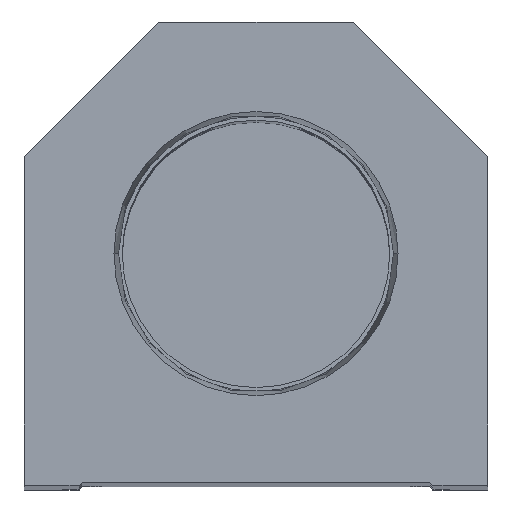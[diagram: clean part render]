
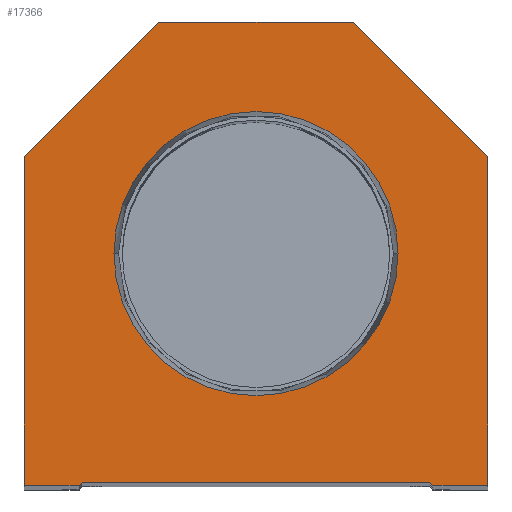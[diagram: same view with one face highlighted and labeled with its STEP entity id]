
A CAD part, top view. The second image highlights one B-rep face of the part: STEP entity #17366.
In plain terms, the highlighted planar face has unit normal (0, 0, 1).
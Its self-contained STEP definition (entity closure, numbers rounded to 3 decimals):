
#59 = ORIENTED_EDGE ( 'NONE', *, *, #10349, .T. ) ;
#123 = CARTESIAN_POINT ( 'NONE',  ( -28.6, 0., 0. ) ) ;
#136 = VECTOR ( 'NONE', #20330, 1000. ) ;
#239 = DIRECTION ( 'NONE',  ( 1., 0., 0. ) ) ;
#343 = CARTESIAN_POINT ( 'NONE',  ( 28.6, 0., 0. ) ) ;
#391 = CARTESIAN_POINT ( 'NONE',  ( -28.6, 0.5, 0. ) ) ;
#417 = CARTESIAN_POINT ( 'NONE',  ( -28.6, 0.5, 0. ) ) ;
#503 = VERTEX_POINT ( 'NONE', #391 ) ;
#581 = ORIENTED_EDGE ( 'NONE', *, *, #6490, .F. ) ;
#603 = EDGE_CURVE ( 'NONE', #5644, #10922, #5080, .T. ) ;
#1473 = VERTEX_POINT ( 'NONE', #15747 ) ;
#1701 = FACE_OUTER_BOUND ( 'NONE', #19092, .T. ) ;
#1912 = DIRECTION ( 'NONE',  ( 0., 1., 0. ) ) ;
#1975 = EDGE_CURVE ( 'NONE', #14886, #8100, #18132, .T. ) ;
#2215 = EDGE_CURVE ( 'NONE', #3286, #503, #13247, .T. ) ;
#2455 = VERTEX_POINT ( 'NONE', #10154 ) ;
#2471 = CARTESIAN_POINT ( 'NONE',  ( 0., 38.1, 0. ) ) ;
#2623 = EDGE_CURVE ( 'NONE', #8100, #11503, #14977, .T. ) ;
#3204 = CARTESIAN_POINT ( 'NONE',  ( 0., 0., 0. ) ) ;
#3286 = VERTEX_POINT ( 'NONE', #6824 ) ;
#4010 = CARTESIAN_POINT ( 'NONE',  ( -38.1, 0., 0. ) ) ;
#4024 = ORIENTED_EDGE ( 'NONE', *, *, #19856, .T. ) ;
#4147 = VECTOR ( 'NONE', #21615, 1000. ) ;
#4477 = VECTOR ( 'NONE', #18718, 1000. ) ;
#4664 = CARTESIAN_POINT ( 'NONE',  ( -14.55, 14.55, 0. ) ) ;
#4911 = DIRECTION ( 'NONE',  ( 0., 0., 1. ) ) ;
#5080 = LINE ( 'NONE', #17137, #4477 ) ;
#5209 = VECTOR ( 'NONE', #239, 1000. ) ;
#5387 = CARTESIAN_POINT ( 'NONE',  ( -38.1, 54.1, 0. ) ) ;
#5510 = CIRCLE ( 'NONE', #9569, 23.374 ) ;
#5560 = EDGE_CURVE ( 'NONE', #2455, #1473, #20027, .T. ) ;
#5644 = VERTEX_POINT ( 'NONE', #5387 ) ;
#5848 = ORIENTED_EDGE ( 'NONE', *, *, #2623, .T. ) ;
#5850 = EDGE_CURVE ( 'NONE', #16399, #11467, #12468, .T. ) ;
#5949 = ORIENTED_EDGE ( 'NONE', *, *, #18598, .T. ) ;
#6307 = DIRECTION ( 'NONE',  ( -0.707, 0.707, 0. ) ) ;
#6490 = EDGE_CURVE ( 'NONE', #11467, #16399, #5510, .T. ) ;
#6824 = CARTESIAN_POINT ( 'NONE',  ( -29.1, 0., 0. ) ) ;
#6941 = CARTESIAN_POINT ( 'NONE',  ( 28.6, 0.5, 0. ) ) ;
#7112 = VECTOR ( 'NONE', #1912, 1000. ) ;
#7644 = DIRECTION ( 'NONE',  ( 1., 0., 0. ) ) ;
#7966 = EDGE_CURVE ( 'NONE', #10922, #3286, #8732, .T. ) ;
#8100 = VERTEX_POINT ( 'NONE', #11592 ) ;
#8490 = DIRECTION ( 'NONE',  ( 1., 0., 0. ) ) ;
#8546 = DIRECTION ( 'NONE',  ( 0.707, -0.707, 0. ) ) ;
#8732 = LINE ( 'NONE', #123, #5209 ) ;
#9569 = AXIS2_PLACEMENT_3D ( 'NONE', #15003, #4911, #13623 ) ;
#9584 = ORIENTED_EDGE ( 'NONE', *, *, #1975, .T. ) ;
#9683 = VECTOR ( 'NONE', #9928, 1000. ) ;
#9916 = AXIS2_PLACEMENT_3D ( 'NONE', #2471, #21497, #7644 ) ;
#9928 = DIRECTION ( 'NONE',  ( 0.707, 0.707, 0. ) ) ;
#10142 = ORIENTED_EDGE ( 'NONE', *, *, #5850, .F. ) ;
#10154 = CARTESIAN_POINT ( 'NONE',  ( 29.1, 0., 0. ) ) ;
#10210 = FACE_BOUND ( 'NONE', #15792, .T. ) ;
#10349 = EDGE_CURVE ( 'NONE', #1473, #14886, #19985, .T. ) ;
#10770 = VECTOR ( 'NONE', #18413, 1000. ) ;
#10922 = VERTEX_POINT ( 'NONE', #4010 ) ;
#11079 = VECTOR ( 'NONE', #8546, 1000. ) ;
#11281 = CARTESIAN_POINT ( 'NONE',  ( -16., 76.2, 0. ) ) ;
#11411 = CARTESIAN_POINT ( 'NONE',  ( 16., 76.2, 0. ) ) ;
#11467 = VERTEX_POINT ( 'NONE', #21828 ) ;
#11503 = VERTEX_POINT ( 'NONE', #11281 ) ;
#11592 = CARTESIAN_POINT ( 'NONE',  ( 16., 76.2, 0. ) ) ;
#11834 = CARTESIAN_POINT ( 'NONE',  ( -23.374, 38.1, 0. ) ) ;
#12466 = CARTESIAN_POINT ( 'NONE',  ( 38.1, 0., 0. ) ) ;
#12468 = CIRCLE ( 'NONE', #9916, 23.374 ) ;
#13223 = PLANE ( 'NONE',  #16894 ) ;
#13247 = LINE ( 'NONE', #4664, #9683 ) ;
#13623 = DIRECTION ( 'NONE',  ( 1., 0., 0. ) ) ;
#14886 = VERTEX_POINT ( 'NONE', #16120 ) ;
#14977 = LINE ( 'NONE', #11411, #10770 ) ;
#15003 = CARTESIAN_POINT ( 'NONE',  ( 0., 38.1, 0. ) ) ;
#15366 = CARTESIAN_POINT ( 'NONE',  ( 38.1, 54.1, 0. ) ) ;
#15747 = CARTESIAN_POINT ( 'NONE',  ( 38.1, 0., 0. ) ) ;
#15792 = EDGE_LOOP ( 'NONE', ( #581, #10142 ) ) ;
#16120 = CARTESIAN_POINT ( 'NONE',  ( 38.1, 54.1, 0. ) ) ;
#16133 = ORIENTED_EDGE ( 'NONE', *, *, #21326, .T. ) ;
#16250 = VERTEX_POINT ( 'NONE', #6941 ) ;
#16399 = VERTEX_POINT ( 'NONE', #11834 ) ;
#16484 = VECTOR ( 'NONE', #16610, 1000. ) ;
#16610 = DIRECTION ( 'NONE',  ( 1., 0., 0. ) ) ;
#16894 = AXIS2_PLACEMENT_3D ( 'NONE', #3204, #18386, #8490 ) ;
#17137 = CARTESIAN_POINT ( 'NONE',  ( -38.1, 0., 0. ) ) ;
#17332 = VECTOR ( 'NONE', #6307, 1000. ) ;
#17366 = ADVANCED_FACE ( 'NONE', ( #10210, #1701 ), #13223, .T. ) ;
#17443 = ORIENTED_EDGE ( 'NONE', *, *, #2215, .T. ) ;
#18022 = ORIENTED_EDGE ( 'NONE', *, *, #5560, .T. ) ;
#18132 = LINE ( 'NONE', #15366, #17332 ) ;
#18170 = CARTESIAN_POINT ( 'NONE',  ( -38.1, 54.1, 0. ) ) ;
#18386 = DIRECTION ( 'NONE',  ( 0., 0., 1. ) ) ;
#18413 = DIRECTION ( 'NONE',  ( -1., 0., 0. ) ) ;
#18598 = EDGE_CURVE ( 'NONE', #16250, #2455, #20570, .T. ) ;
#18625 = CARTESIAN_POINT ( 'NONE',  ( 14.55, 14.55, 0. ) ) ;
#18718 = DIRECTION ( 'NONE',  ( 0., -1., 0. ) ) ;
#19092 = EDGE_LOOP ( 'NONE', ( #19583, #17443, #16133, #5949, #18022, #59, #9584, #5848, #4024, #21266 ) ) ;
#19549 = LINE ( 'NONE', #417, #4147 ) ;
#19583 = ORIENTED_EDGE ( 'NONE', *, *, #7966, .T. ) ;
#19856 = EDGE_CURVE ( 'NONE', #11503, #5644, #21934, .T. ) ;
#19985 = LINE ( 'NONE', #12466, #7112 ) ;
#20027 = LINE ( 'NONE', #343, #16484 ) ;
#20330 = DIRECTION ( 'NONE',  ( -0.707, -0.707, 0. ) ) ;
#20570 = LINE ( 'NONE', #18625, #11079 ) ;
#21266 = ORIENTED_EDGE ( 'NONE', *, *, #603, .T. ) ;
#21326 = EDGE_CURVE ( 'NONE', #503, #16250, #19549, .T. ) ;
#21497 = DIRECTION ( 'NONE',  ( 0., 0., 1. ) ) ;
#21615 = DIRECTION ( 'NONE',  ( 1., 0., 0. ) ) ;
#21828 = CARTESIAN_POINT ( 'NONE',  ( 23.374, 38.1, 0. ) ) ;
#21934 = LINE ( 'NONE', #18170, #136 ) ;
